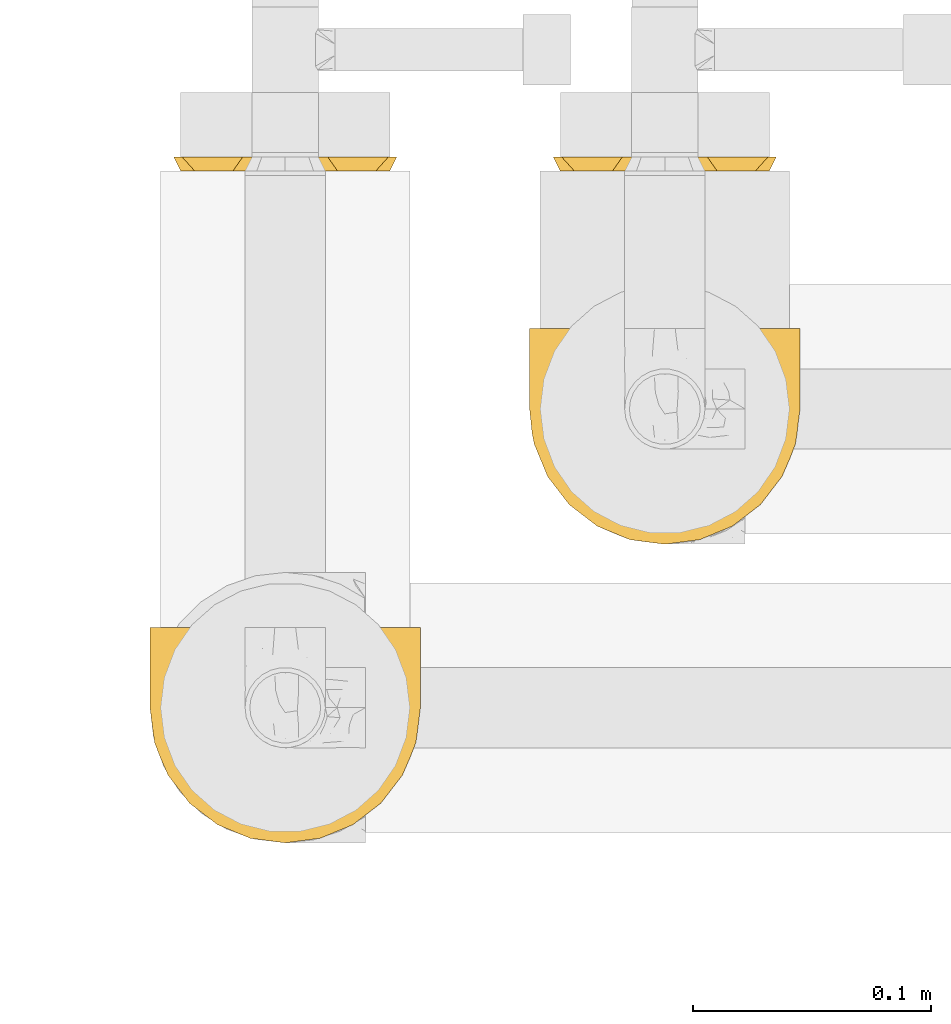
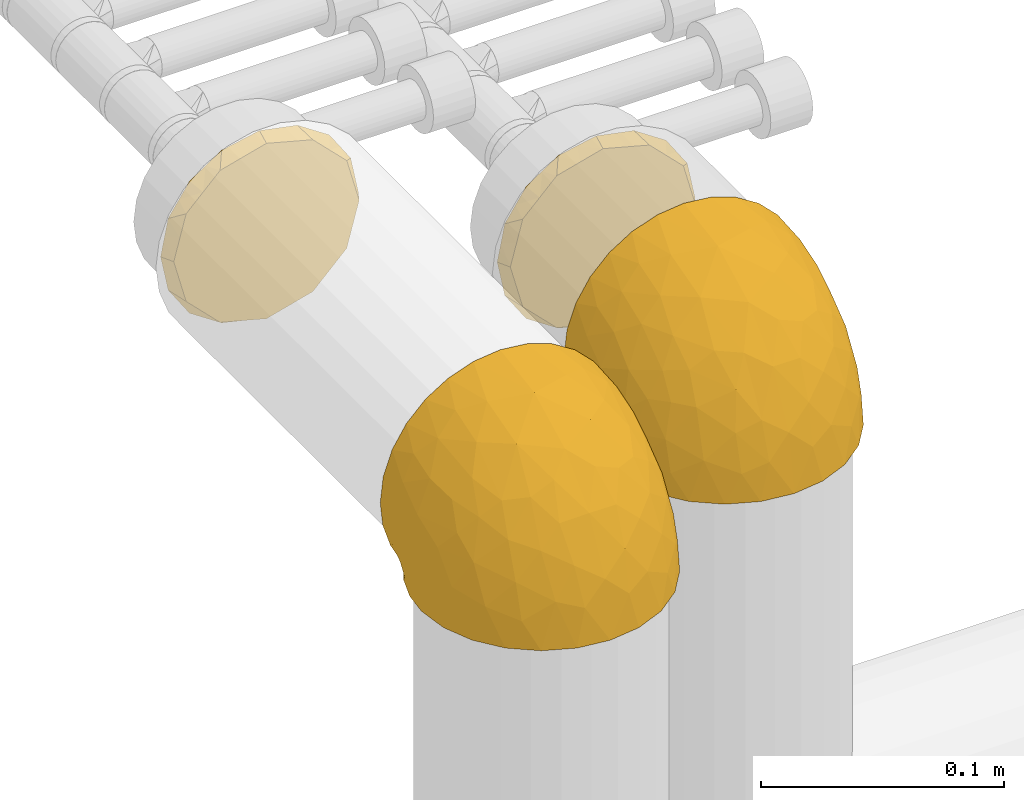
# One storey, part 16 of 83: 4 coverings.
"""IFC2X3 building model written with IfcOpenShell, lengths in millimetres."""

from ifc_helpers import new_model, entity, si_unit, converted_unit, derived_unit, direction, frame, origin_with_axes, place, context, subcontext, project, spatial, open_shell, surface_model, source, transform, mapped, element, save


model = new_model("IFC2X3")

# Units and contexts
model_context = context("Model", 3, precision=0.01, world=frame((0.0, 4.29681676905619e-09, 0.0)), true_north=direction((4.01073788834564e-13, 1.0)))
plan_context = context("Plan", 3, precision=0.01, world=frame((0.0, 4.29681676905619e-09, 0.0)), true_north=direction((4.01073788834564e-13, 1.0)))
body_context = subcontext(model_context, "Body", "Model", "MODEL_VIEW")
ifc_project = project(units=[converted_unit("PLANEANGLEUNIT", "DEGREE", entity("IfcPositiveLengthMeasure", 0.0174532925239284), si_unit("PLANEANGLEUNIT", "RADIAN"), dimensions=[0, 0, 0, 0, 0, 0, 0]), si_unit("AREAUNIT", "SQUARE_METRE"), si_unit("LENGTHUNIT", "METRE", prefix="MILLI"), si_unit("MASSUNIT", "GRAM", prefix="KILO"), si_unit("POWERUNIT", "WATT"), si_unit("PRESSUREUNIT", "PASCAL"), si_unit("FORCEUNIT", "NEWTON", prefix="KILO"), si_unit("ELECTRICVOLTAGEUNIT", "VOLT"), si_unit("ELECTRICCURRENTUNIT", "AMPERE"), si_unit("THERMODYNAMICTEMPERATUREUNIT", "DEGREE_CELSIUS"), si_unit("TIMEUNIT", "SECOND"), si_unit("VOLUMEUNIT", "CUBIC_METRE"), derived_unit("LINEARVELOCITYUNIT", [(si_unit("LENGTHUNIT", "METRE"), 1), (si_unit("TIMEUNIT", "SECOND"), -1)]), derived_unit("VOLUMETRICFLOWRATEUNIT", [(si_unit("VOLUMEUNIT", "CUBIC_METRE"), 1), (si_unit("TIMEUNIT", "SECOND"), -1)]), derived_unit("THERMALTRANSMITTANCEUNIT", [(si_unit("POWERUNIT", "WATT"), 1), (si_unit("THERMODYNAMICTEMPERATUREUNIT", "KELVIN"), -1), (si_unit("AREAUNIT", "SQUARE_METRE"), -1)]), derived_unit("SOUNDPRESSUREUNIT", [(si_unit("PRESSUREUNIT", "PASCAL"), 1)])], contexts=[model_context, plan_context])

# Site, building, storey
site_placement = place(None, frame((0.0, -4.29681676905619e-09, 0.0), z_axis=(0.0, 0.0, 1.0), x_axis=(1.0, 0.0, 0.0)))
site = spatial("IfcSite", under=ifc_project, at=site_placement, Name="ENGM", CompositionType="ELEMENT")
building_placement = place(site_placement, frame((0.0, 4.29681676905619e-09, 0.0), z_axis=(0.0, 0.0, 1.0), x_axis=(1.0, 0.0, 0.0)))
building = spatial("IfcBuilding", under=site, at=building_placement, Name="TI", CompositionType="ELEMENT")
storey_placement = place(building_placement, frame((0.0, 0.0, 204000.0), z_axis=(0.0, 0.0, 1.0), x_axis=(1.0, 0.0, 0.0)))
storey = spatial("IfcBuildingStorey", under=building, at=storey_placement, Name="Nivå D", CompositionType="ELEMENT", Elevation=204000.0)

# Coverings
shared_shape_1 = source(origin_with_axes(), body_context, "Body", "SurfaceModel", [
    surface_model("IfcShellBasedSurfaceModel", [(24.69442, 33.8, 51.26203), (35.48425, 33.8, 44.48008), (51.27108, 33.8, 24.67561), (-33.34059, 33.8, -46.10873), (44.4937, 33.8, 35.46718), (-11.775, 33.8, 55.6683), (0.0, 33.8, 56.9), (-33.34059, 33.8, 46.10873), (-23.05704, 33.8, 52.01906), (12.66523, 33.8, 55.47253), (55.47675, 33.8, 12.64674), (56.9, 33.8, 0.0), (55.47253, 33.8, -12.66523), (44.48008, 33.8, -35.48425), (51.26203, 33.8, -24.69442), (35.46718, 33.8, -44.4937), (-23.07704, 33.8, -52.01019), (-11.7964, 33.8, -55.66377), (24.67561, 33.8, -51.27108), (12.64674, 33.8, -55.47675), (0.0, 33.8, -56.9), (-33.8, 33.34059, 46.10873), (-33.8, 33.34059, -46.10873), (-33.8, 23.06476, -52.01564), (-33.8, 11.78813, -55.66552), (-33.8, 0.0, -56.9), (-33.8, 0.0, 56.9), (-33.8, 23.06476, 52.01564), (-33.8, 11.78813, 55.66552), (-33.8, -14.7268, 54.96118), (-33.8, -14.7268, -54.96118), (-33.8, -28.45, -49.27684), (-33.8, -40.23438, -40.23438), (-33.8, -49.27684, -28.45), (-33.8, -54.96118, -14.7268), (-33.8, -54.96118, 14.7268), (-33.8, -40.23438, 40.23438), (-33.8, -28.45, 49.27684), (-33.8, -49.27684, 28.45), (-33.8, -56.9, 0.0), (-33.47515, 33.47515, 46.10873), (-33.47515, 33.47515, -46.10873), (-32.08364, 25.44579, -50.9801), (-33.67665, 33.39168, -46.10873), (-30.83312, 26.67841, -50.56853), (-15.87334, 20.68765, -55.70718), (-10.71417, 10.71417, -56.9), (-22.5985, 20.69411, -54.43708), (-25.35, 2.26417, -56.9), (-28.51435, 18.40378, -54.135), (-23.15334, 12.21937, -56.06086), (-33.43341, 33.5759, -46.10873), (-33.39168, 33.67665, -46.10873), (-18.4122, 28.52188, -54.13163), (-25.86292, 27.59402, -51.71796), (-10.594, 29.15837, -55.99022), (-2.26417, 25.35, -56.9), (-33.5759, 33.43341, -46.10873), (-9.88716, 23.89498, -56.34654), (-4.52834, 16.9, -56.9), (-26.53944, 21.15799, -53.5551), (-29.02753, 27.72284, -50.57484), (-16.9, 4.52834, -56.9), (-1.89548, 26.72596, -56.9), (-21.08164, -9.83471, -55.69449), (-12.19459, -6.31894, -55.67005), (1.29929, -23.83547, -45.86), (-3.44185, -39.07106, -34.63852), (-16.08681, -32.30654, -45.14181), (-12.53249, -17.54431, -52.56875), (-24.14956, -20.93038, -52.56875), (19.51212, -39.57784, 0.0), (-5.77216, -52.46082, 0.0), (2.43768, -47.9375, -12.04628), (27.50756, -27.50756, -20.95211), (9.13936, -40.31341, -23.42618), (12.63976, -31.02468, -33.56907), (29.0814, 21.55934, -48.18545), (17.10597, 20.64085, -53.71172), (-15.67837, -54.0783, -10.47602), (-20.00402, -43.92696, -34.63852), (-11.38936, -49.61057, -21.77469), (25.8449, -21.54003, -31.23005), (42.40332, -10.087, -17.51383), (18.75415, -18.3345, -40.2421), (10.4419, -13.49624, -47.73768), (21.60417, -5.46943, -45.54281), (9.23089, 7.63542, -54.43656), (24.82732, 7.97866, -48.18545), (37.87075, 15.27302, -40.2421), (-0.20989, 3.79953, -55.7794), (50.92012, 11.89905, -18.79808), (30.72116, -7.8177, -37.28829), (41.22013, 0.75864, -30.27981), (46.66377, 18.13685, -30.27981), (18.39178, -38.38046, -13.50943), (32.12068, -27.27232, -9.7235), (52.46082, 5.77216, 0.0), (39.57784, -19.51212, 0.0), (-26.72596, 1.89548, -56.9), (1.285, -6.94906, -53.27967), (24.84384, 7.9713, 48.17409), (29.09917, 21.55599, 48.17409), (17.12404, 20.63566, 53.70514), (-16.07985, -54.20588, 10.23371), (-2.14575, -46.559, 21.77469), (1.72334, -48.57904, 10.55822), (14.17314, -39.78008, 17.81974), (-19.63149, -51.39867, 21.77469), (31.54782, -1.01192, 40.22682), (30.88333, -13.90178, 32.6927), (41.23057, 0.75415, 30.26172), (18.76512, -18.34538, 40.22666), (20.72445, -26.00089, 31.88611), (50.9267, 11.89822, 18.77928), (-16.6221, -7.67112, 55.80919), (-16.9, 4.52834, 56.9), (-25.35, 2.26417, 56.9), (-13.80199, -42.5668, 34.63852), (-21.83958, -33.58531, 45.14181), (-19.37969, -19.87123, 52.56875), (7.60894, -34.46398, 33.43332), (-7.48103, -29.3755, 45.14181), (26.00634, -33.17128, 10.14462), (27.51051, -27.51051, 20.94155), (-25.39793, -9.93514, 55.87819), (46.67489, 18.13455, 30.26172), (-1.12035, 1.70754, 55.61965), (-4.52834, 16.9, 56.9), (-10.71417, 10.71417, 56.9), (42.40865, -10.09182, 17.4921), (37.8857, 15.26915, 40.22666), (9.23512, 7.61904, 54.43287), (-1.89548, 26.72596, 56.9), (6.61304, -17.87206, 47.18516), (-9.78518, -15.45307, 52.88466), (14.61926, -5.8279, 49.09168), (-9.48758, -2.99227, 55.96008), (7.94789, -26.49594, 40.91874), (-1.31124, -9.39277, 53.17563), (-29.15757, 10.59376, 55.9903), (-23.89175, 9.87937, 56.34772), (-24.61782, 17.65103, 54.82579), (-29.75291, 25.81063, 51.18968), (-28.51435, 18.40378, 54.135), (-15.87334, 20.68765, 55.70718), (-25.86292, 27.59402, 51.71796), (-22.5985, 20.69411, 54.43708), (-26.85079, 30.69652, 50.51467), (-33.39168, 33.67665, 46.10873), (-33.43341, 33.5759, 46.10873), (-25.55723, 31.93363, 50.94173), (-18.39517, 28.5074, 54.13837), (-2.26417, 25.35, 56.9), (-33.67665, 33.39168, 46.10873), (-28.3466, 27.59544, 50.84629), (-33.5759, 33.43341, 46.10873)], [open_shell([[[0, 1, 2]], [[0, 2, 3]], [[2, 1, 4]], [[3, 5, 0]], [[6, 0, 5]], [[7, 8, 5]], [[5, 3, 7]], [[6, 9, 0]], [[3, 2, 10]], [[3, 11, 12]], [[3, 12, 13]], [[13, 12, 14]], [[3, 13, 15]], [[16, 3, 17]], [[18, 3, 15]], [[19, 3, 18]], [[20, 17, 3]], [[20, 3, 19]], [[11, 3, 10]], [[21, 22, 23]], [[24, 25, 23]], [[26, 23, 25]], [[27, 21, 28]], [[23, 28, 21]], [[23, 26, 28]], [[25, 29, 26]], [[25, 30, 29]], [[30, 31, 32]], [[32, 33, 34]], [[32, 34, 30]], [[30, 34, 35]], [[36, 37, 35]], [[36, 35, 38]], [[37, 30, 35]], [[34, 39, 35]], [[30, 37, 29]], [[22, 21, 40]], [[41, 22, 40]], [[7, 3, 40]], [[41, 40, 3]], [[42, 43, 44]], [[45, 46, 47]], [[48, 49, 50]], [[51, 52, 53]], [[22, 43, 42]], [[24, 23, 42]], [[54, 41, 51]], [[17, 55, 16]], [[51, 53, 54]], [[45, 47, 54]], [[16, 52, 3]], [[55, 20, 56]], [[43, 57, 44]], [[45, 58, 59]], [[16, 53, 52]], [[58, 55, 56]], [[50, 49, 60]], [[59, 58, 56]], [[54, 47, 61]], [[53, 58, 45]], [[53, 45, 54]], [[46, 62, 47]], [[45, 59, 46]], [[22, 42, 23]], [[44, 60, 49]], [[60, 61, 47]], [[42, 44, 49]], [[41, 61, 57]], [[61, 44, 57]], [[50, 47, 62]], [[61, 60, 44]], [[54, 61, 41]], [[47, 50, 60]], [[48, 25, 24]], [[48, 24, 49]], [[50, 62, 48]], [[55, 58, 53]], [[16, 55, 53]], [[55, 17, 20]], [[63, 20, 19]], [[64, 62, 65]], [[66, 67, 68]], [[69, 70, 64]], [[71, 72, 73]], [[74, 75, 76]], [[77, 78, 18]], [[70, 31, 30]], [[34, 79, 39]], [[31, 68, 32]], [[80, 33, 32]], [[31, 70, 68]], [[73, 81, 75]], [[33, 80, 81]], [[74, 82, 83]], [[84, 85, 86]], [[87, 59, 78]], [[78, 88, 87]], [[89, 88, 77]], [[89, 15, 13]], [[78, 59, 63]], [[78, 19, 18]], [[46, 90, 65]], [[91, 14, 12]], [[92, 89, 93]], [[94, 89, 13]], [[83, 93, 91]], [[71, 95, 96]], [[92, 93, 82]], [[33, 81, 34]], [[13, 14, 94]], [[12, 97, 91]], [[12, 11, 97]], [[93, 94, 91]], [[74, 76, 82]], [[83, 97, 98]], [[75, 81, 67]], [[18, 15, 77]], [[79, 81, 73]], [[63, 19, 78]], [[66, 68, 69]], [[80, 68, 67]], [[30, 25, 99]], [[88, 92, 86]], [[87, 100, 90]], [[91, 94, 14]], [[89, 94, 93]], [[89, 77, 15]], [[78, 77, 88]], [[97, 83, 91]], [[96, 83, 98]], [[100, 66, 69]], [[66, 84, 76]], [[65, 69, 64]], [[87, 88, 86]], [[76, 75, 67]], [[75, 95, 73]], [[75, 74, 95]], [[79, 73, 72]], [[39, 79, 72]], [[34, 81, 79]], [[96, 95, 74]], [[71, 73, 95]], [[83, 96, 74]], [[71, 96, 98]], [[66, 76, 67]], [[87, 90, 59]], [[76, 84, 82]], [[92, 82, 84]], [[83, 82, 93]], [[86, 92, 84]], [[89, 92, 88]], [[85, 84, 66]], [[86, 85, 87]], [[66, 100, 85]], [[87, 85, 100]], [[68, 80, 32]], [[81, 80, 67]], [[64, 30, 99]], [[68, 70, 69]], [[30, 64, 70]], [[62, 64, 99]], [[46, 65, 62]], [[100, 69, 65]], [[65, 90, 100]], [[59, 90, 46]], [[101, 102, 103]], [[39, 72, 104]], [[105, 106, 107]], [[104, 105, 108]], [[109, 110, 111]], [[38, 35, 108]], [[112, 113, 110]], [[2, 114, 10]], [[115, 116, 117]], [[97, 10, 114]], [[108, 118, 38]], [[105, 104, 106]], [[36, 119, 37]], [[37, 119, 120]], [[0, 9, 103]], [[121, 122, 118]], [[123, 124, 107]], [[120, 115, 125]], [[2, 4, 126]], [[37, 120, 29]], [[127, 128, 129]], [[114, 2, 126]], [[11, 10, 97]], [[130, 114, 111]], [[110, 130, 111]], [[4, 1, 131]], [[132, 101, 103]], [[111, 126, 131]], [[1, 0, 102]], [[111, 131, 109]], [[103, 128, 132]], [[36, 38, 118]], [[121, 105, 107]], [[102, 131, 1]], [[109, 131, 101]], [[9, 6, 133]], [[128, 103, 133]], [[114, 130, 97]], [[122, 134, 135]], [[9, 133, 103]], [[112, 136, 134]], [[136, 101, 132]], [[121, 118, 105]], [[119, 118, 122]], [[129, 137, 127]], [[136, 112, 109]], [[115, 137, 116]], [[29, 125, 26]], [[138, 112, 134]], [[103, 102, 0]], [[131, 102, 101]], [[131, 126, 4]], [[114, 126, 111]], [[123, 130, 124]], [[97, 130, 98]], [[127, 136, 132]], [[137, 129, 116]], [[134, 136, 139]], [[125, 115, 117]], [[135, 115, 120]], [[26, 125, 117]], [[120, 125, 29]], [[136, 109, 101]], [[110, 109, 112]], [[112, 138, 113]], [[130, 110, 124]], [[107, 113, 121]], [[124, 110, 113]], [[135, 134, 139]], [[138, 122, 121]], [[118, 119, 36]], [[120, 119, 122]], [[122, 135, 120]], [[137, 135, 139]], [[135, 137, 115]], [[137, 139, 127]], [[136, 127, 139]], [[128, 127, 132]], [[104, 108, 35]], [[118, 108, 105]], [[39, 104, 35]], [[104, 72, 106]], [[72, 71, 106]], [[123, 107, 106]], [[123, 106, 71]], [[107, 124, 113]], [[71, 98, 123]], [[130, 123, 98]], [[122, 138, 134]], [[113, 138, 121]], [[117, 140, 26]], [[116, 141, 117]], [[142, 143, 144]], [[145, 146, 147]], [[148, 149, 150]], [[28, 140, 27]], [[5, 8, 151]], [[145, 152, 146]], [[152, 153, 5]], [[154, 21, 27]], [[153, 6, 5]], [[148, 151, 149]], [[40, 146, 150]], [[141, 140, 117]], [[141, 142, 144]], [[144, 154, 27]], [[143, 154, 144]], [[155, 156, 143]], [[147, 129, 145]], [[7, 149, 151]], [[148, 146, 152]], [[146, 148, 150]], [[152, 145, 128]], [[129, 147, 116]], [[129, 128, 145]], [[151, 148, 152]], [[5, 151, 152]], [[7, 151, 8]], [[152, 128, 153]], [[142, 116, 147]], [[140, 141, 144]], [[27, 140, 144]], [[140, 28, 26]], [[116, 142, 141]], [[155, 146, 40]], [[147, 146, 155]], [[147, 143, 142]], [[154, 143, 156]], [[156, 155, 40]], [[143, 147, 155]], [[24, 42, 49]]])]),
])
covering_1_placement = place(storey_placement, frame((603209.87398, 693361.26264, 6283.60000000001), z_axis=(-1.0, 0.0, 0.0), x_axis=(0.0, 0.0, 1.0)))
element("IfcCovering", 1, at=covering_1_placement, inside=storey, Name="BI11T - Rørskål m/Al.folie - varme 60-25", PredefinedType="INSULATION", context=body_context, shape_type="MappedRepresentation", body=[
    mapped(shared_shape_1, transform((0.0, 0.0, 0.0), scale=1.0)),
])
shared_shape_2 = source(origin_with_axes(), body_context, "Body", "SurfaceModel", [
    surface_model("IfcShellBasedSurfaceModel", [(0.0, 22.0, 38.10512), (0.0, 44.0, 0.0), (0.0, 0.0, 44.0), (0.0, -38.10512, 22.0), (0.0, -22.0, 38.10512), (0.0, 0.0, -44.0), (0.0, 38.10512, -22.0), (0.0, 22.0, -38.10512), (5.8, 45.11497, 8.97393), (5.8, 46.9, 0.0), (5.8, 38.24663, 25.55558), (5.8, 43.32995, 17.94785), (0.0, 38.10512, 22.0), (0.0, 30.05256, 30.05256), (5.8, 25.55558, 38.24663), (5.8, 33.16331, 33.16331), (5.8, 8.97393, 45.11497), (5.8, 0.0, 46.9), (0.0, 41.05256, 11.0), (0.0, 11.0, 41.05256), (5.8, 17.94785, 43.32995), (5.8, -8.97393, 45.11497), (5.8, -25.55558, 38.24663), (5.8, -17.94785, 43.32995), (0.0, -30.05256, 30.05256), (5.8, -38.24663, 25.55558), (5.8, -33.16331, 33.16331), (5.8, -45.11497, 8.97393), (0.0, -44.0, 0.0), (5.8, -46.9, 0.0), (0.0, -11.0, 41.05256), (0.0, -41.05256, 11.0), (5.8, -43.32995, 17.94785), (5.8, -45.11497, -8.97393), (5.8, -38.24663, -25.55558), (5.8, -43.32995, -17.94785), (0.0, -38.10512, -22.0), (0.0, -30.05256, -30.05256), (0.0, -22.0, -38.10512), (5.8, -25.55558, -38.24663), (5.8, -33.16331, -33.16331), (5.8, -8.97393, -45.11497), (5.8, 0.0, -46.9), (0.0, -41.05256, -11.0), (0.0, -11.0, -41.05256), (5.8, -17.94785, -43.32995), (5.8, 8.97393, -45.11497), (5.8, 25.55558, -38.24663), (5.8, 17.94785, -43.32995), (0.0, 30.05256, -30.05256), (5.8, 38.24663, -25.55558), (5.8, 33.16331, -33.16331), (5.8, 45.11497, -8.97393), (0.0, 11.0, -41.05256), (0.0, 41.05256, -11.0), (5.8, 43.32995, -17.94785)], [open_shell([[[0, 1, 2]], [[2, 3, 4]], [[5, 6, 7]], [[8, 9, 1]], [[10, 11, 12]], [[10, 12, 13]], [[0, 14, 13]], [[10, 13, 15]], [[16, 2, 17]], [[1, 18, 8]], [[14, 15, 13]], [[2, 16, 19]], [[18, 12, 11]], [[18, 11, 8]], [[20, 0, 19]], [[16, 20, 19]], [[0, 20, 14]], [[21, 17, 2]], [[22, 23, 4]], [[22, 4, 24]], [[3, 25, 24]], [[22, 24, 26]], [[27, 28, 29]], [[2, 30, 21]], [[25, 26, 24]], [[28, 27, 31]], [[30, 4, 23]], [[30, 23, 21]], [[32, 3, 31]], [[27, 32, 31]], [[3, 32, 25]], [[33, 29, 28]], [[34, 35, 36]], [[34, 36, 37]], [[38, 39, 37]], [[34, 37, 40]], [[41, 5, 42]], [[28, 43, 33]], [[39, 40, 37]], [[5, 41, 44]], [[43, 36, 35]], [[43, 35, 33]], [[45, 38, 44]], [[41, 45, 44]], [[38, 45, 39]], [[46, 42, 5]], [[47, 48, 7]], [[47, 7, 49]], [[6, 50, 49]], [[47, 49, 51]], [[52, 1, 9]], [[5, 53, 46]], [[50, 51, 49]], [[1, 52, 54]], [[53, 7, 48]], [[53, 48, 46]], [[55, 6, 54]], [[52, 55, 54]], [[6, 55, 50]], [[20, 23, 26]], [[20, 26, 32]], [[17, 23, 20]], [[55, 15, 20]], [[55, 11, 15]], [[32, 29, 35]], [[40, 45, 32]], [[48, 45, 42]], [[11, 55, 9]], [[51, 55, 45]], [[48, 51, 45]], [[32, 35, 40]], [[3, 2, 28]], [[0, 12, 1]], [[5, 1, 6]], [[38, 36, 28]], [[28, 5, 38]], [[20, 32, 55]], [[32, 45, 55]], [[5, 28, 2]], [[2, 1, 5]]])]),
])
covering_2_placement = place(storey_placement, frame((603209.87398, 693461.44875, 6283.60000000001), z_axis=(0.0, 0.0, 1.0), x_axis=(7.49999997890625e-05, 0.9999999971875, 0.0)))
element("IfcCovering", 2, at=covering_2_placement, inside=storey, Name="BI11T - Rørskål m/Al.folie - varme 60-25", PredefinedType="INSULATION", context=body_context, shape_type="MappedRepresentation", body=[
    mapped(shared_shape_2, transform((0.0, 0.0, 0.0), scale=1.0)),
])
shared_shape_3 = source(origin_with_axes(), body_context, "Body", "SurfaceModel", [
    surface_model("IfcShellBasedSurfaceModel", [(24.69416, 33.80044, 51.26203), (-33.34084, 33.8, -46.10873), (-11.77525, 33.80017, 55.6683), (35.484, 33.80052, 44.48008), (51.27083, 33.80064, 24.67561), (44.49344, 33.80059, 35.46718), (55.47228, 33.80068, -12.66523), (-0.00026, 33.80026, 56.9), (12.66497, 33.80035, 55.47253), (-33.34084, 33.8, 46.10873), (-23.0573, 33.80008, 52.01906), (55.4765, 33.80068, 12.64674), (56.89974, 33.80068, 0.0), (44.47982, 33.80059, -35.48425), (51.26177, 33.80064, -24.69442), (35.46693, 33.80052, -44.4937), (-23.07729, 33.80008, -52.01019), (-11.79665, 33.80017, -55.66377), (24.67535, 33.80044, -51.27108), (12.64649, 33.80035, -55.47675), (-0.00026, 33.80026, -56.9), (-33.80026, 33.34059, 46.10873), (-33.80026, 33.34059, -46.10873), (-33.80026, 23.06476, -52.01564), (-33.80026, 11.78813, -55.66552), (-33.80026, 0.0, -56.9), (-33.80026, -28.45, 49.27684), (-33.80026, 23.06476, 52.01564), (-33.80026, 11.78813, 55.66552), (-33.80026, 0.0, 56.9), (-33.80026, -14.7268, 54.96118), (-33.80026, -14.7268, -54.96118), (-33.80026, -28.45, -49.27684), (-33.80026, -40.23438, -40.23438), (-33.80026, -49.27684, -28.45), (-33.80026, -54.96118, -14.7268), (-33.80026, -40.23438, 40.23438), (-33.80026, -56.9, 0.0), (-33.80026, -54.96118, 14.7268), (-33.80026, -49.27684, 28.45), (-33.4754, 33.47515, 46.10873), (-33.4754, 33.47515, -46.10873), (-32.0839, 25.44579, -50.9801), (-33.67691, 33.39168, -46.10873), (-30.83338, 26.67841, -50.56853), (-15.8735, 20.68753, -55.70721), (-10.71435, 10.71427, -56.9), (-22.5988, 20.69415, -54.43706), (-25.35022, 2.26419, -56.9), (-28.51461, 18.40378, -54.135), (-23.15359, 12.21936, -56.06086), (-33.43367, 33.5759, -46.10873), (-33.39194, 33.67665, -46.10873), (-18.41241, 28.522, -54.13163), (-26.5397, 21.15799, -53.55509), (-25.86308, 27.594, -51.71801), (-10.59415, 29.15851, -55.99024), (-2.26438, 25.3502, -56.9), (-33.57615, 33.43342, -46.10873), (-9.88736, 23.89511, -56.34654), (-4.52851, 16.90015, -56.9), (-29.02785, 27.72291, -50.57479), (-16.90018, 4.52838, -56.9), (-1.89569, 26.7262, -56.9), (-21.00894, -10.08494, -55.63933), (-24.1498, -20.93038, -52.56875), (-12.53271, -17.5443, -52.56875), (19.51209, -39.57768, 0.0), (-5.77228, -52.46078, 0.0), (2.43744, -47.93749, -12.04629), (-0.20995, 3.79976, -55.7794), (-12.19517, -6.31896, -55.67008), (29.08123, 21.55976, -48.18545), (17.1058, 20.6412, -53.71172), (-16.08705, -32.30654, -45.14181), (-15.67867, -54.07831, -10.47599), (-11.38957, -49.61056, -21.77469), (-20.00419, -43.92694, -34.63852), (9.13928, -40.31334, -23.42611), (27.50754, -27.50733, -20.9521), (25.8448, -21.53985, -31.23004), (42.40332, -10.08661, -17.51374), (18.75409, -18.3343, -40.2421), (10.44172, -13.49603, -47.73775), (21.60409, -5.46916, -45.54281), (9.23081, 7.63575, -54.43657), (24.82722, 7.979, -48.18545), (37.87062, 15.27351, -40.2421), (12.63971, -31.02456, -33.56905), (50.92001, 11.89964, -18.79808), (30.7211, -7.81745, -37.28826), (41.22007, 0.75907, -30.27981), (46.66361, 18.13738, -30.27981), (18.3918, -38.38033, -13.50922), (32.12071, -27.27201, -9.7235), (-3.44197, -39.071, -34.63852), (1.29915, -23.83545, -45.85996), (52.46074, 5.77268, 0.0), (39.57783, -19.51179, 0.0), (1.28484, -6.94886, -53.27971), (24.84373, 7.97164, 48.17409), (29.099, 21.55641, 48.17409), (17.12388, 20.63601, 53.70514), (-15.6788, -54.07838, 10.4758), (-11.39134, -49.61103, 21.77469), (9.13977, -40.31289, 23.42645), (-3.4466, -39.07293, 34.63852), (-20.00694, -43.92743, 34.63852), (18.76506, -18.34518, 40.22666), (12.62878, -31.03357, 33.56773), (25.82889, -21.57021, 31.21635), (18.38433, -38.38493, 13.51188), (2.43697, -47.93759, 12.04671), (50.92659, 11.8988, 18.77928), (-25.35022, 2.26419, 56.9), (-21.00894, -10.08494, 55.63933), (-12.19517, -6.31896, 55.67008), (-16.08705, -32.30654, 45.14181), (-12.53271, -17.5443, 52.56875), (-24.1498, -20.93038, 52.56875), (1.30598, -23.83392, 45.85831), (32.10842, -27.28817, 9.71216), (27.51049, -27.51028, 20.94154), (46.67474, 18.13508, 30.26172), (9.23504, 7.61936, 54.43287), (1.28211, -6.95621, 53.27828), (10.46159, -13.49451, 47.72966), (-16.90018, 4.52838, 56.9), (42.40865, -10.09143, 17.49201), (41.2305, 0.75458, 30.26172), (37.88557, 15.26965, 40.22666), (30.73484, -7.84437, 37.2581), (-4.52851, 16.90015, 56.9), (-1.89569, 26.7262, 56.9), (-0.21241, 3.79303, 55.77887), (-10.71435, 10.71427, 56.9), (21.63654, -5.47694, 45.5196), (-29.1578, 10.59368, 55.99031), (-23.89196, 9.87939, 56.34772), (-24.61811, 17.65108, 54.82578), (-29.7532, 25.81067, 51.18965), (-28.51461, 18.40378, 54.135), (-15.8735, 20.68753, 55.70721), (-25.86308, 27.594, 51.71801), (-22.5988, 20.69415, 54.43706), (-26.85103, 30.69657, 50.51467), (-33.39194, 33.67665, 46.10873), (-33.43367, 33.5759, 46.10873), (-25.55748, 31.93368, 50.94173), (-18.39538, 28.50752, 54.13837), (-2.26438, 25.3502, 56.9), (-33.67691, 33.39168, 46.10873), (-28.34681, 27.59547, 50.84629), (-33.57615, 33.43342, 46.10873)], [open_shell([[[0, 1, 2]], [[3, 1, 0]], [[4, 3, 5]], [[4, 6, 3]], [[7, 8, 0]], [[9, 10, 2]], [[9, 2, 1]], [[7, 0, 2]], [[4, 11, 12]], [[3, 6, 1]], [[6, 13, 1]], [[13, 6, 14]], [[15, 1, 13]], [[16, 1, 17]], [[18, 1, 15]], [[19, 1, 18]], [[20, 17, 1]], [[20, 1, 19]], [[6, 4, 12]], [[21, 22, 23]], [[24, 25, 23]], [[21, 23, 26]], [[27, 21, 28]], [[21, 26, 28]], [[28, 26, 29]], [[29, 26, 30]], [[26, 23, 25]], [[31, 32, 33]], [[33, 34, 35]], [[31, 33, 26]], [[26, 33, 35]], [[36, 26, 37]], [[36, 38, 39]], [[38, 36, 37]], [[26, 35, 37]], [[31, 26, 25]], [[22, 21, 40]], [[41, 22, 40]], [[9, 1, 40]], [[41, 40, 1]], [[42, 43, 44]], [[45, 46, 47]], [[48, 49, 50]], [[51, 52, 53]], [[44, 54, 49]], [[22, 43, 42]], [[24, 23, 42]], [[55, 41, 51]], [[17, 56, 16]], [[51, 53, 55]], [[45, 47, 55]], [[16, 52, 1]], [[56, 20, 57]], [[43, 58, 44]], [[45, 59, 60]], [[16, 53, 52]], [[59, 56, 57]], [[50, 49, 54]], [[60, 59, 57]], [[55, 47, 61]], [[53, 59, 45]], [[53, 45, 55]], [[46, 62, 47]], [[45, 60, 46]], [[24, 42, 49]], [[22, 42, 23]], [[54, 61, 47]], [[42, 44, 49]], [[41, 61, 58]], [[61, 44, 58]], [[50, 47, 62]], [[61, 54, 44]], [[55, 61, 41]], [[47, 50, 54]], [[48, 25, 24]], [[48, 24, 49]], [[50, 62, 48]], [[56, 59, 53]], [[16, 56, 53]], [[56, 17, 20]], [[63, 20, 19]], [[25, 48, 64]], [[65, 32, 31]], [[64, 66, 65]], [[67, 68, 69]], [[46, 70, 71]], [[72, 73, 18]], [[74, 32, 65]], [[35, 75, 37]], [[34, 76, 35]], [[77, 34, 33]], [[74, 33, 32]], [[69, 76, 78]], [[34, 77, 76]], [[79, 80, 81]], [[82, 83, 84]], [[85, 60, 73]], [[73, 86, 85]], [[87, 86, 72]], [[87, 15, 13]], [[73, 60, 63]], [[73, 19, 18]], [[79, 78, 88]], [[89, 14, 6]], [[90, 87, 91]], [[92, 87, 13]], [[81, 91, 89]], [[67, 93, 94]], [[90, 91, 80]], [[95, 74, 96]], [[13, 14, 92]], [[6, 97, 89]], [[6, 12, 97]], [[91, 92, 89]], [[79, 88, 80]], [[81, 97, 98]], [[96, 74, 66]], [[18, 15, 72]], [[48, 71, 64]], [[63, 19, 73]], [[77, 74, 95]], [[78, 76, 95]], [[75, 76, 69]], [[86, 90, 84]], [[85, 99, 70]], [[89, 92, 14]], [[87, 92, 91]], [[87, 72, 15]], [[73, 72, 86]], [[97, 81, 89]], [[94, 81, 98]], [[99, 96, 66]], [[96, 82, 88]], [[71, 66, 64]], [[85, 86, 84]], [[88, 78, 95]], [[78, 93, 69]], [[78, 79, 93]], [[75, 69, 68]], [[37, 75, 68]], [[35, 76, 75]], [[94, 93, 79]], [[67, 69, 93]], [[81, 94, 79]], [[67, 94, 98]], [[96, 88, 95]], [[85, 70, 60]], [[88, 82, 80]], [[90, 80, 82]], [[81, 80, 91]], [[84, 90, 82]], [[87, 90, 86]], [[83, 82, 96]], [[84, 83, 85]], [[96, 99, 83]], [[85, 83, 99]], [[31, 25, 64]], [[74, 65, 66]], [[31, 64, 65]], [[71, 48, 62]], [[46, 71, 62]], [[99, 66, 71]], [[74, 77, 33]], [[76, 77, 95]], [[71, 70, 99]], [[60, 70, 46]], [[100, 101, 102]], [[37, 68, 103]], [[104, 105, 106]], [[104, 106, 107]], [[108, 109, 110]], [[111, 105, 112]], [[105, 109, 106]], [[4, 113, 11]], [[114, 115, 116]], [[97, 11, 113]], [[117, 118, 119]], [[39, 38, 104]], [[30, 119, 115]], [[119, 30, 26]], [[0, 8, 102]], [[117, 120, 118]], [[121, 122, 111]], [[30, 115, 29]], [[4, 5, 123]], [[124, 125, 126]], [[116, 127, 114]], [[113, 4, 123]], [[12, 11, 97]], [[128, 113, 129]], [[110, 128, 129]], [[5, 3, 130]], [[124, 100, 102]], [[129, 123, 130]], [[3, 0, 101]], [[110, 131, 108]], [[102, 132, 124]], [[36, 39, 107]], [[117, 26, 36]], [[101, 130, 3]], [[131, 130, 100]], [[8, 7, 133]], [[132, 102, 133]], [[113, 128, 97]], [[107, 117, 36]], [[8, 133, 102]], [[106, 109, 120]], [[68, 112, 103]], [[105, 111, 122]], [[134, 132, 135]], [[125, 118, 120]], [[102, 101, 0]], [[130, 101, 100]], [[130, 123, 5]], [[113, 123, 129]], [[121, 128, 122]], [[97, 128, 98]], [[106, 120, 117]], [[131, 136, 108]], [[126, 108, 136]], [[124, 134, 125]], [[105, 104, 112]], [[122, 110, 109]], [[103, 112, 104]], [[67, 112, 68]], [[104, 38, 103]], [[37, 103, 38]], [[112, 67, 111]], [[121, 67, 98]], [[67, 121, 111]], [[128, 121, 98]], [[122, 109, 105]], [[116, 135, 127]], [[120, 109, 108]], [[128, 110, 122]], [[131, 110, 129]], [[130, 131, 129]], [[136, 131, 100]], [[124, 136, 100]], [[108, 126, 120]], [[124, 126, 136]], [[125, 120, 126]], [[117, 119, 26]], [[115, 119, 118]], [[115, 118, 116]], [[115, 114, 29]], [[118, 125, 116]], [[116, 125, 134]], [[104, 107, 39]], [[117, 107, 106]], [[132, 134, 124]], [[116, 134, 135]], [[114, 137, 29]], [[127, 138, 114]], [[139, 140, 141]], [[142, 143, 144]], [[145, 146, 147]], [[28, 137, 27]], [[2, 10, 148]], [[142, 149, 143]], [[149, 150, 2]], [[151, 21, 27]], [[150, 7, 2]], [[145, 148, 146]], [[40, 143, 147]], [[138, 137, 114]], [[138, 139, 141]], [[141, 151, 27]], [[140, 151, 141]], [[152, 153, 140]], [[144, 135, 142]], [[9, 146, 148]], [[145, 143, 149]], [[143, 145, 147]], [[149, 142, 132]], [[135, 144, 127]], [[135, 132, 142]], [[148, 145, 149]], [[2, 148, 149]], [[9, 148, 10]], [[149, 132, 150]], [[139, 127, 144]], [[137, 138, 141]], [[27, 137, 141]], [[137, 28, 29]], [[127, 139, 138]], [[152, 143, 40]], [[144, 143, 152]], [[144, 140, 139]], [[151, 140, 153]], [[153, 152, 40]], [[140, 144, 152]]])]),
])
covering_3_placement = place(storey_placement, frame((603050.14337, 693235.60884, 6342.19886999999), z_axis=(-1.0, 0.0, 0.0), x_axis=(0.0, 0.0, 1.0)))
element("IfcCovering", 3, at=covering_3_placement, inside=storey, Name="BI11T - Rørskål m/Al.folie - varme 60-25", PredefinedType="INSULATION", context=body_context, shape_type="MappedRepresentation", body=[
    mapped(shared_shape_3, transform((0.0, 0.0, 0.0), scale=1.0)),
])
shared_shape_4 = source(origin_with_axes(), body_context, "Body", "SurfaceModel", [
    surface_model("IfcShellBasedSurfaceModel", [(0.0, 22.0, 38.10512), (0.0, 44.0, 0.0), (0.0, 0.0, 44.0), (0.0, -38.10512, 22.0), (0.0, -22.0, 38.10512), (0.0, 0.0, -44.0), (0.0, 38.10512, -22.0), (0.0, 22.0, -38.10512), (5.8, 45.11497, 8.97393), (5.8, 46.9, 0.0), (5.8, 38.24663, 25.55558), (5.8, 43.32995, 17.94785), (0.0, 38.10512, 22.0), (0.0, 30.05256, 30.05256), (5.8, 25.55558, 38.24663), (5.8, 33.16331, 33.16331), (5.8, 8.97393, 45.11497), (5.8, 0.0, 46.9), (0.0, 41.05256, 11.0), (0.0, 11.0, 41.05256), (5.8, 17.94785, 43.32995), (5.8, -8.97393, 45.11497), (5.8, -25.55558, 38.24663), (5.8, -17.94785, 43.32995), (0.0, -30.05256, 30.05256), (5.8, -38.24663, 25.55558), (5.8, -33.16331, 33.16331), (5.8, -45.11497, 8.97393), (0.0, -44.0, 0.0), (5.8, -46.9, 0.0), (0.0, -11.0, 41.05256), (0.0, -41.05256, 11.0), (5.8, -43.32995, 17.94785), (5.8, -45.11497, -8.97393), (5.8, -38.24663, -25.55558), (5.8, -43.32995, -17.94785), (0.0, -38.10512, -22.0), (0.0, -30.05256, -30.05256), (0.0, -22.0, -38.10512), (5.8, -25.55558, -38.24663), (5.8, -33.16331, -33.16331), (5.8, -8.97393, -45.11497), (5.8, 0.0, -46.9), (0.0, -41.05256, -11.0), (0.0, -11.0, -41.05256), (5.8, -17.94785, -43.32995), (5.8, 8.97393, -45.11497), (5.8, 25.55558, -38.24663), (5.8, 17.94785, -43.32995), (0.0, 30.05256, -30.05256), (5.8, 38.24663, -25.55558), (5.8, 33.16331, -33.16331), (5.8, 45.11497, -8.97393), (0.0, 11.0, -41.05256), (0.0, 41.05256, -11.0), (5.8, 43.32995, -17.94785)], [open_shell([[[0, 1, 2]], [[2, 3, 4]], [[5, 6, 7]], [[8, 9, 1]], [[10, 11, 12]], [[10, 12, 13]], [[0, 14, 13]], [[10, 13, 15]], [[16, 2, 17]], [[1, 18, 8]], [[14, 15, 13]], [[2, 16, 19]], [[18, 12, 11]], [[18, 11, 8]], [[20, 0, 19]], [[16, 20, 19]], [[0, 20, 14]], [[21, 17, 2]], [[22, 23, 4]], [[22, 4, 24]], [[3, 25, 24]], [[22, 24, 26]], [[27, 28, 29]], [[2, 30, 21]], [[25, 26, 24]], [[28, 27, 31]], [[30, 4, 23]], [[30, 23, 21]], [[32, 3, 31]], [[27, 32, 31]], [[3, 32, 25]], [[33, 29, 28]], [[34, 35, 36]], [[34, 36, 37]], [[38, 39, 37]], [[34, 37, 40]], [[41, 5, 42]], [[28, 43, 33]], [[39, 40, 37]], [[5, 41, 44]], [[43, 36, 35]], [[43, 35, 33]], [[45, 38, 44]], [[41, 45, 44]], [[38, 45, 39]], [[46, 42, 5]], [[47, 48, 7]], [[47, 7, 49]], [[6, 50, 49]], [[47, 49, 51]], [[52, 1, 9]], [[5, 53, 46]], [[50, 51, 49]], [[1, 52, 54]], [[53, 7, 48]], [[53, 48, 46]], [[55, 6, 54]], [[52, 55, 54]], [[6, 55, 50]], [[20, 23, 26]], [[20, 26, 32]], [[20, 32, 45]], [[17, 23, 20]], [[55, 15, 20]], [[55, 11, 15]], [[32, 29, 35]], [[40, 45, 32]], [[20, 45, 55]], [[48, 45, 42]], [[11, 55, 9]], [[51, 55, 45]], [[48, 51, 45]], [[32, 35, 40]], [[1, 28, 2]], [[3, 2, 28]], [[0, 12, 1]], [[5, 1, 6]], [[38, 36, 28]], [[28, 5, 38]], [[28, 1, 5]]])]),
])
covering_4_placement = place(storey_placement, frame((603050.14337, 693461.44875, 6342.19716000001), z_axis=(0.0, 0.0, 1.0), x_axis=(0.0, 1.0, 0.0)))
element("IfcCovering", 4, at=covering_4_placement, inside=storey, Name="BI11T - Rørskål m/Al.folie - varme 60-25", PredefinedType="INSULATION", context=body_context, shape_type="MappedRepresentation", body=[
    mapped(shared_shape_4, transform((0.0, 0.0, 0.0), scale=1.0)),
])

save(model, "model.ifc")
